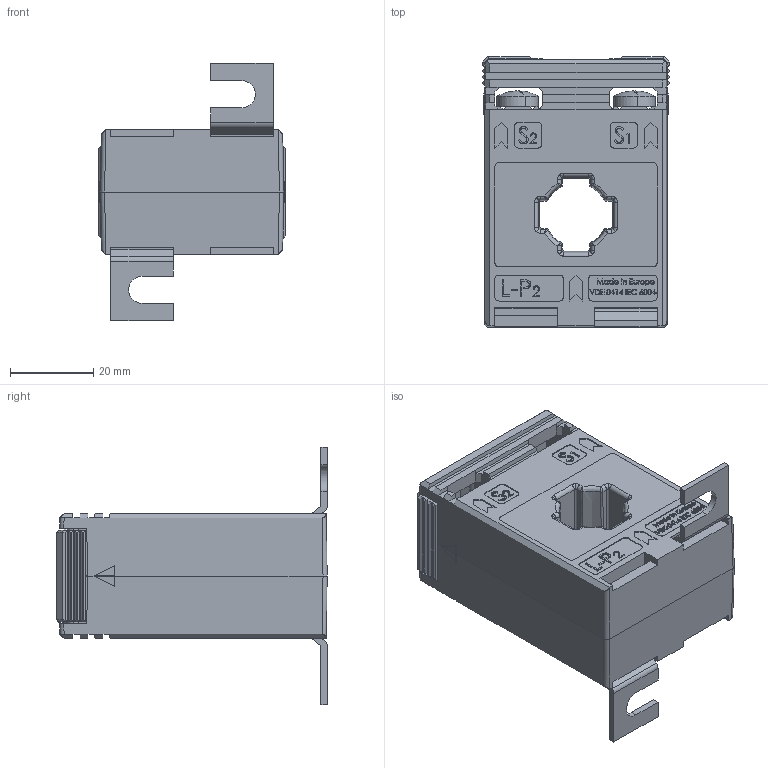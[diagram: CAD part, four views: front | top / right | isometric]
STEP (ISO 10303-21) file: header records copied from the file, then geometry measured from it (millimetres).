
FILE_DESCRIPTION (( 'STEP AP214' ), '1' );
FILE_NAME ('AS176.3_kpl.STEP', '2012-02-07T09:13:14', ( ' ' ), ( '' ), 'SwSTEP 2.0', 'SolidWorks 2010', '' );
FILE_SCHEMA (( 'AUTOMOTIVE_DESIGN' ));
Length unit declared in the file: millimetre
Products named in the file (7): Verschlussklappe_22mm; Linsenschraube DIN 7985 4.8 VZ M 5 x 10; Fusswinkel_1,5; AS176.3_kpl; AS176.3_Gehäuae; AS176.3_Gehäuae_Gehäuseoberteil; MBS_WN-003_04_Klemme_WN-003_02
Assembly tree (10 placements, depth 2):
  AS176.3_kpl
    Fusswinkel_1,5  x2
    Verschlussklappe_22mm  x2
    AS176.3_Gehäuae
    Linsenschraube DIN 7985 4.8 VZ M 5 x 10  x2
    MBS_WN-003_04_Klemme_WN-003_02  x2
    AS176.3_Gehäuae_Gehäuseoberteil
Bounding box: 45 x 65 x 62 mm (x, y, z)
Volume: 72028.8 mm3; surface area: 29082.6 mm2
Topology: 11 solids, 11 shells, 1605 faces, 4192 edges, 2720 vertices
Faces by surface type: plane 1037, bspline 376, cylinder 124, cone 44, sphere 12, torus 12
Entity records: 62895 total; most frequent: CARTESIAN_POINT 29194, ORIENTED_EDGE 7668, DIRECTION 5458, EDGE_CURVE 3834, VECTOR 2722, LINE 2722, VERTEX_POINT 2504, EDGE_LOOP 1586
